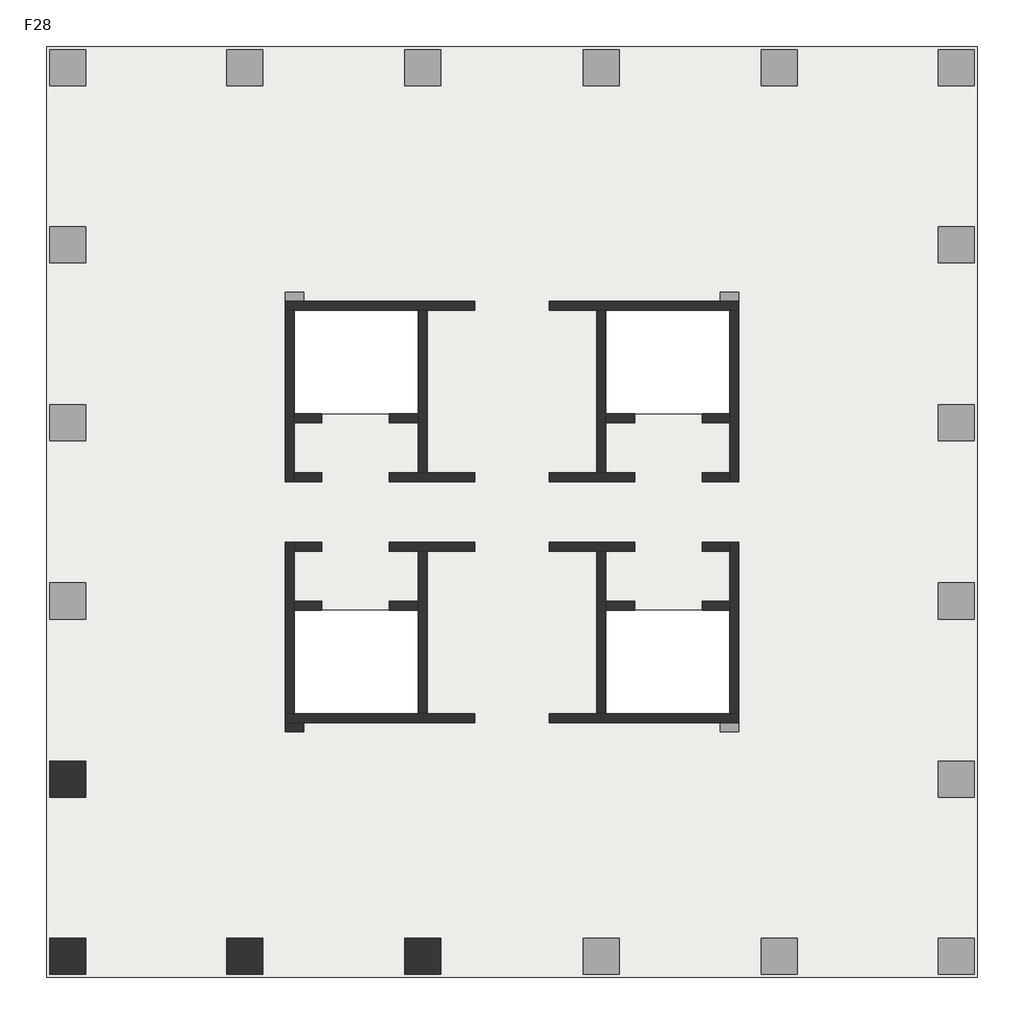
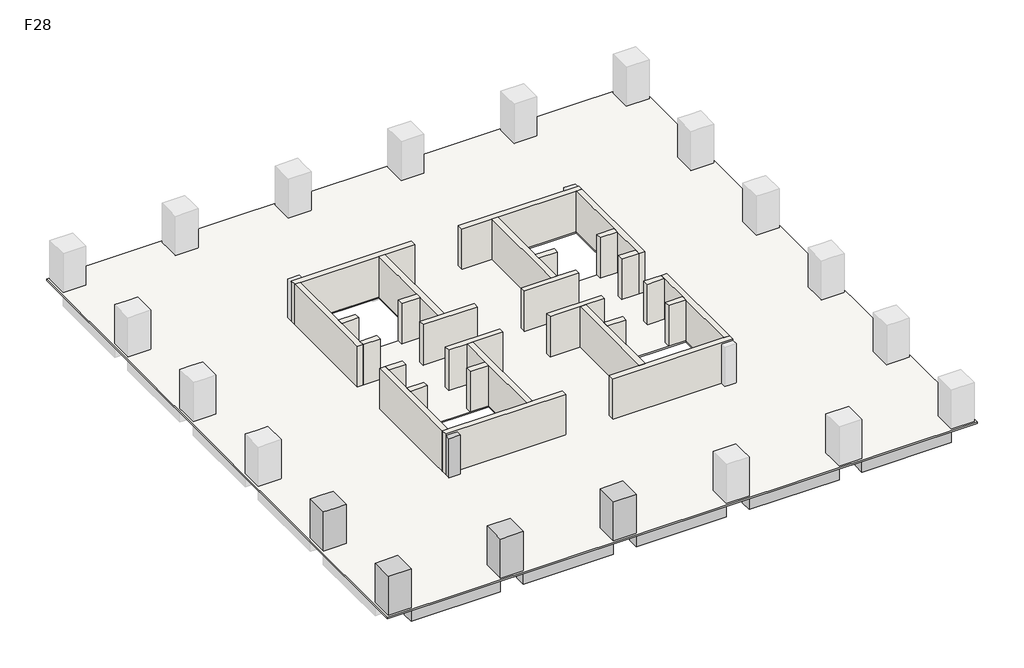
# One storey, part 1 of 2: 28 walls, 5 columns, 3 beams, 1 slab.
"""IFC4 building model written with IfcOpenShell, lengths in millimetres."""

from ifc_helpers import new_model, si_unit, frame, origin, place, context, project, spatial, polyline, outline, extrude, faceted_brep, element, save

model = new_model("IFC4")

# Units and contexts
model_context = context("Model", 3, world=origin())
ifc_project = project(units=[si_unit("LENGTHUNIT", "METRE", prefix="MILLI")], contexts=[model_context])

# Site, building, storey
site = spatial("IfcSite", under=ifc_project)
building = spatial("IfcBuilding", under=site)
storey = spatial("IfcBuildingStorey", under=building, Name="F28", Elevation=102000.0)

# Beams
placement = place(None, origin())
element("IfcBeam", 1, ObjectType="混凝土 - 矩形梁 : KL(5)-800x1000", at=placement, inside=storey, context=model_context, shape_type="SweptSolid", body=[
    extrude(outline(polyline([(-12472.6742169, -13948.9501342), (-12472.6742169, -13148.9501342), (-6222.6742169, -13148.9501342), (-6222.6742169, -13948.9501342), (-12472.6742169, -13948.9501342)])), frame((0.0, 0.0, 101000.0), z_axis=(0.0, 0.0, 1.0), x_axis=(1.0, 0.0, 0.0)), (0.0, 0.0, 1.0), 900.0),
    extrude(outline(polyline([(25327.3257831, -13148.9501342), (25327.3257831, -13948.9501342), (19077.3257831, -13948.9501342), (19077.3257831, -13148.9501342), (25327.3257831, -13148.9501342)])), frame((0.0, 0.0, 101000.0), z_axis=(0.0, 0.0, 1.0), x_axis=(1.0, 0.0, 0.0)), (0.0, 0.0, 1.0), 900.0),
    extrude(outline(polyline([(-4622.6742169, -13948.9501342), (-4622.6742169, -13148.9501342), (1677.3257831, -13148.9501342), (1677.3257831, -13948.9501342), (-4622.6742169, -13948.9501342)])), frame((0.0, 0.0, 101000.0), z_axis=(0.0, 0.0, 1.0), x_axis=(1.0, 0.0, 0.0)), (0.0, 0.0, 1.0), 900.0),
    extrude(outline(polyline([(3277.3257831, -13948.9501342), (3277.3257831, -13148.9501342), (9577.3257831, -13148.9501342), (9577.3257831, -13948.9501342), (3277.3257831, -13948.9501342)])), frame((0.0, 0.0, 101000.0), z_axis=(0.0, 0.0, 1.0), x_axis=(1.0, 0.0, 0.0)), (0.0, 0.0, 1.0), 900.0),
    extrude(outline(polyline([(11177.3257831, -13948.9501342), (11177.3257831, -13148.9501342), (17477.3257831, -13148.9501342), (17477.3257831, -13948.9501342), (11177.3257831, -13948.9501342)])), frame((0.0, 0.0, 101000.0), z_axis=(0.0, 0.0, 1.0), x_axis=(1.0, 0.0, 0.0)), (0.0, 0.0, 1.0), 900.0),
])
element("IfcBeam", 2, ObjectType="混凝土 - 矩形梁 : L1-800x500", at=placement, inside=storey, context=model_context, shape_type="Brep", body=[
    faceted_brep([(-12472.6742169, -5512.1353397, 101500.0), (-3746.9473979, -3341.556529, 101500.0), (-3173.6696907, -3198.9501342, 101500.0), (-3173.6696907, -3198.9501342, 101900.0), (-3746.9473979, -3341.556529, 101900.0), (-12472.6742169, -5512.1353397, 101900.0), (-3622.6742169, -3198.9501342, 101500.0), (-12472.6742169, -4687.7549784, 101500.0), (-3622.6742169, -2486.2624411, 101500.0), (-3622.6742169, -2798.9501342, 101500.0), (-12472.6742169, -4687.7549784, 101900.0), (-3622.6742169, -2486.2624411, 101900.0), (-3622.6742169, -3198.9501342, 101900.0)], [[[0, 1, 2, 3, 4, 5]], [[6, 2, 1, 0, 7, 8, 9]], [[8, 7, 10, 11]], [[2, 6, 12, 3]], [[9, 8, 11, 12, 6]], [[7, 0, 5, 10]], [[5, 4, 3, 12, 11, 10]]]),
])
element("IfcBeam", 3, ObjectType="混凝土 - 矩形梁 : L1-800x500", at=placement, inside=storey, context=model_context, shape_type="SweptSolid", body=[
    extrude(outline(polyline([(-3746.9473979, -3341.556529), (-3173.6696907, -3198.9501342), (-2898.7618154, -3198.9501342), (-4843.6893517, -12348.9501342), (-5661.5624638, -12348.9501342), (-3746.9473979, -3341.556529)])), frame((0.0, 0.0, 101500.0), z_axis=(0.0, 0.0, 1.0), x_axis=(1.0, 0.0, 0.0)), (0.0, 0.0, 1.0), 400.0),
])

# Columns
element("IfcColumn", 4, ObjectType="混凝土 - 矩形 - 柱 : Z1-1600x1600", at=placement, inside=storey, context=model_context, shape_type="Brep", body=[
    faceted_brep([(-12472.6742169, -4498.9501342, 102000.0), (-12472.6742169, -6098.9501342, 102000.0), (-14072.6742169, -6098.9501342, 102000.0), (-14072.6742169, -4498.9501342, 102000.0), (-12472.6742169, -4498.9501342, 104900.0), (-12472.6742169, -6098.9501342, 104900.0), (-13272.6742169, -6098.9501342, 104900.0), (-14072.6742169, -6098.9501342, 104900.0), (-14072.6742169, -6098.9501342, 104000.0), (-14072.6742169, -4498.9501342, 104900.0), (-14072.6742169, -4498.9501342, 104000.0), (-13272.6742169, -4498.9501342, 104900.0)], [[[0, 1, 2, 3]], [[1, 0, 4, 5]], [[2, 1, 5, 6, 7, 8]], [[3, 2, 8, 7, 9, 10]], [[0, 3, 10, 9, 11, 4]], [[5, 4, 11, 9, 7, 6]]]),
])
element("IfcColumn", 5, ObjectType="混凝土 - 矩形 - 柱 : Z1-1600x1600", at=placement, inside=storey, context=model_context, shape_type="SweptSolid", body=[
    extrude(outline(polyline([(-12472.6742169, -12348.9501342), (-12472.6742169, -13948.9501342), (-14072.6742169, -13948.9501342), (-14072.6742169, -12348.9501342), (-12472.6742169, -12348.9501342)])), frame((0.0, 0.0, 102000.0), z_axis=(0.0, 0.0, 1.0), x_axis=(1.0, 0.0, 0.0)), (0.0, 0.0, 1.0), 2900.0),
])
element("IfcColumn", 6, ObjectType="混凝土 - 矩形 - 柱 : Z1-1600x1600", at=placement, inside=storey, context=model_context, shape_type="Brep", body=[
    faceted_brep([(-4622.6742169, -12348.9501342, 102000.0), (-4622.6742169, -13948.9501342, 102000.0), (-6222.6742169, -13948.9501342, 102000.0), (-6222.6742169, -12348.9501342, 102000.0), (-4622.6742169, -12348.9501342, 104900.0), (-4622.6742169, -13148.9501342, 104900.0), (-4622.6742169, -13948.9501342, 104900.0), (-4622.6742169, -13948.9501342, 104000.0), (-6222.6742169, -13948.9501342, 104900.0), (-6222.6742169, -13948.9501342, 104000.0), (-6222.6742169, -13148.9501342, 104900.0), (-6222.6742169, -12348.9501342, 104900.0)], [[[0, 1, 2, 3]], [[1, 0, 4, 5, 6, 7]], [[2, 1, 7, 6, 8, 9]], [[3, 2, 9, 8, 10, 11]], [[0, 3, 11, 4]], [[6, 5, 4, 11, 10, 8]]]),
])
element("IfcColumn", 7, ObjectType="混凝土 - 矩形 - 柱 : Z1-1600x1600", at=placement, inside=storey, context=model_context, shape_type="Brep", body=[
    faceted_brep([(3277.3257831, -12348.9501342, 102000.0), (3277.3257831, -13948.9501342, 102000.0), (1677.3257831, -13948.9501342, 102000.0), (1677.3257831, -12348.9501342, 102000.0), (3277.3257831, -12348.9501342, 104900.0), (3277.3257831, -13148.9501342, 104900.0), (3277.3257831, -13948.9501342, 104900.0), (3277.3257831, -13948.9501342, 104000.0), (1677.3257831, -13948.9501342, 104900.0), (1677.3257831, -13948.9501342, 104000.0), (1677.3257831, -13148.9501342, 104900.0), (1677.3257831, -12348.9501342, 104900.0)], [[[0, 1, 2, 3]], [[1, 0, 4, 5, 6, 7]], [[2, 1, 7, 6, 8, 9]], [[3, 2, 9, 8, 10, 11]], [[0, 3, 11, 4]], [[6, 5, 4, 11, 10, 8]]]),
])
element("IfcColumn", 8, ObjectType="混凝土 - 矩形 - 柱 : Z2-800x800", at=placement, inside=storey, context=model_context, shape_type="SweptSolid", body=[
    extrude(outline(polyline([(-2822.6742169, -3198.9501342), (-3622.6742169, -3198.9501342), (-3622.6742169, -2798.9501342), (-2822.6742169, -2798.9501342), (-2822.6742169, -3198.9501342)])), frame((0.0, 0.0, 102000.0), z_axis=(0.0, 0.0, 1.0), x_axis=(1.0, 0.0, 0.0)), (0.0, 0.0, 1.0), 2900.0),
])

# Slab
element("IfcSlab", 9, ObjectType="LB-100", at=placement, inside=storey, context=model_context, shape_type="SweptSolid", body=[
    extrude(outline(polyline([(27077.3257831, 27201.0498658), (27077.3257831, -14085.2672073), (-14222.6742169, -14085.2672073), (-14222.6742169, 27201.0498658), (27077.3257831, 27201.0498658)]), holes=[polyline([(2277.3257831, 15501.0498658), (-3222.6742169, 15501.0498658), (-3222.6742169, 10901.0498658), (2277.3257831, 10901.0498658), (2277.3257831, 15501.0498658)]), polyline([(2277.3257831, 2201.0498658), (-3222.6742169, 2201.0498658), (-3222.6742169, -2398.9501342), (2277.3257831, -2398.9501342), (2277.3257831, 2201.0498658)]), polyline([(16077.3257831, 2201.0498658), (10577.3257831, 2201.0498658), (10577.3257831, -2398.9501342), (16077.3257831, -2398.9501342), (16077.3257831, 2201.0498658)]), polyline([(16077.3257831, 15501.0498658), (10577.3257831, 15501.0498658), (10577.3257831, 10901.0498658), (16077.3257831, 10901.0498658), (16077.3257831, 15501.0498658)])]), frame((0.0, 0.0, 101900.0), z_axis=(0.0, 0.0, 1.0), x_axis=(1.0, 0.0, 0.0)), (0.0, 0.0, 1.0), 100.0),
])

# Walls
element("IfcWall", 10, ObjectType="剪力墙-400", at=placement, inside=storey, context=model_context, shape_type="Brep", body=[
    faceted_brep([(-3622.6742169, 15501.0498658, 102000.0), (-3222.6742169, 15501.0498658, 102000.0), (2277.3257831, 15501.0498658, 102000.0), (2677.3257831, 15501.0498658, 102000.0), (4777.3257831, 15501.0498658, 102000.0), (4777.3257831, 15501.0498658, 105000.0), (2677.3257831, 15501.0498658, 105000.0), (2277.3257831, 15501.0498658, 105000.0), (-3222.6742169, 15501.0498658, 105000.0), (-3622.6742169, 15501.0498658, 105000.0), (-3622.6742169, 15901.0498658, 102000.0), (-3622.6742169, 15901.0498658, 104900.0), (-3622.6742169, 15901.0498658, 105000.0), (4777.3257831, 15901.0498658, 105000.0), (4777.3257831, 15901.0498658, 102000.0), (-2822.6742169, 15901.0498658, 102000.0)], [[[0, 1, 2, 3, 4, 5, 6, 7, 8, 9]], [[10, 11, 12, 13, 14, 15]], [[4, 3, 2, 1, 0, 10, 15, 14]], [[5, 4, 14, 13]], [[9, 8, 7, 6, 5, 13, 12]], [[0, 9, 12, 11, 10]]]),
])
element("IfcWall", 11, ObjectType="剪力墙-400", at=placement, inside=storey, context=model_context, shape_type="Brep", body=[
    faceted_brep([(2277.3257831, 15501.0498658, 102000.0), (2277.3257831, 10901.0498658, 102000.0), (2277.3257831, 10501.0498658, 102000.0), (2277.3257831, 8301.0498658, 102000.0), (2277.3257831, 8301.0498658, 105000.0), (2277.3257831, 10501.0498658, 105000.0), (2277.3257831, 10901.0498658, 105000.0), (2277.3257831, 15501.0498658, 105000.0), (2677.3257831, 15501.0498658, 102000.0), (2677.3257831, 15501.0498658, 105000.0), (2677.3257831, 8301.0498658, 105000.0), (2677.3257831, 8301.0498658, 102000.0)], [[[0, 1, 2, 3, 4, 5, 6, 7]], [[8, 9, 10, 11]], [[3, 2, 1, 0, 8, 11]], [[7, 6, 5, 4, 10, 9]], [[0, 7, 9, 8]], [[4, 3, 11, 10]]]),
])
element("IfcWall", 12, ObjectType="剪力墙-400", at=placement, inside=storey, context=model_context, shape_type="Brep", body=[
    faceted_brep([(-3622.6742169, 15501.0498658, 102000.0), (-3622.6742169, 7901.0498658, 102000.0), (-3622.6742169, 7901.0498658, 105000.0), (-3622.6742169, 15501.0498658, 105000.0), (-3222.6742169, 15501.0498658, 102000.0), (-3222.6742169, 15501.0498658, 105000.0), (-3222.6742169, 10901.0498658, 105000.0), (-3222.6742169, 10501.0498658, 105000.0), (-3222.6742169, 8301.0498658, 105000.0), (-3222.6742169, 7901.0498658, 105000.0), (-3222.6742169, 7901.0498658, 102000.0), (-3222.6742169, 8301.0498658, 102000.0), (-3222.6742169, 10501.0498658, 102000.0), (-3222.6742169, 10901.0498658, 102000.0)], [[[0, 1, 2, 3]], [[4, 5, 6, 7, 8, 9, 10, 11, 12, 13]], [[1, 0, 4, 13, 12, 11, 10]], [[3, 2, 9, 8, 7, 6, 5]], [[0, 3, 5, 4]], [[2, 1, 10, 9]]]),
])
element("IfcWall", 13, ObjectType="剪力墙-400", at=placement, inside=storey, context=model_context, shape_type="SweptSolid", body=[
    extrude(outline(polyline([(-2022.6742169, 7901.0498658), (-3222.6742169, 7901.0498658), (-3222.6742169, 8301.0498658), (-2022.6742169, 8301.0498658), (-2022.6742169, 7901.0498658)])), frame((0.0, 0.0, 102000.0), z_axis=(0.0, 0.0, 1.0), x_axis=(1.0, 0.0, 0.0)), (0.0, 0.0, 1.0), 3000.0),
])
element("IfcWall", 14, ObjectType="剪力墙-400", at=placement, inside=storey, context=model_context, shape_type="Brep", body=[
    faceted_brep([(977.3257831, 7901.0498658, 102000.0), (4777.3257831, 7901.0498658, 102000.0), (4777.3257831, 7901.0498658, 105000.0), (977.3257831, 7901.0498658, 105000.0), (977.3257831, 8301.0498658, 102000.0), (977.3257831, 8301.0498658, 105000.0), (2277.3257831, 8301.0498658, 105000.0), (2677.3257831, 8301.0498658, 105000.0), (4777.3257831, 8301.0498658, 105000.0), (4777.3257831, 8301.0498658, 102000.0), (2677.3257831, 8301.0498658, 102000.0), (2277.3257831, 8301.0498658, 102000.0)], [[[0, 1, 2, 3]], [[4, 5, 6, 7, 8, 9, 10, 11]], [[1, 0, 4, 11, 10, 9]], [[2, 1, 9, 8]], [[3, 2, 8, 7, 6, 5]], [[0, 3, 5, 4]]]),
])
element("IfcWall", 15, ObjectType="剪力墙-400", at=placement, inside=storey, context=model_context, shape_type="SweptSolid", body=[
    extrude(outline(polyline([(-2022.6742169, 10501.0498658), (-3222.6742169, 10501.0498658), (-3222.6742169, 10901.0498658), (-2022.6742169, 10901.0498658), (-2022.6742169, 10501.0498658)])), frame((0.0, 0.0, 102000.0), z_axis=(0.0, 0.0, 1.0), x_axis=(1.0, 0.0, 0.0)), (0.0, 0.0, 1.0), 3000.0),
])
element("IfcWall", 16, ObjectType="剪力墙-400", at=placement, inside=storey, context=model_context, shape_type="SweptSolid", body=[
    extrude(outline(polyline([(2277.3257831, 10501.0498658), (977.3257831, 10501.0498658), (977.3257831, 10901.0498658), (2277.3257831, 10901.0498658), (2277.3257831, 10501.0498658)])), frame((0.0, 0.0, 102000.0), z_axis=(0.0, 0.0, 1.0), x_axis=(1.0, 0.0, 0.0)), (0.0, 0.0, 1.0), 3000.0),
])
element("IfcWall", 17, ObjectType="剪力墙-400", at=placement, inside=storey, context=model_context, shape_type="Brep", body=[
    faceted_brep([(16477.3257831, 15901.0498658, 102000.0), (15677.3257831, 15901.0498658, 102000.0), (8077.3257831, 15901.0498658, 102000.0), (8077.3257831, 15901.0498658, 105000.0), (16477.3257831, 15901.0498658, 105000.0), (16477.3257831, 15901.0498658, 104900.0), (16477.3257831, 15501.0498658, 102000.0), (16477.3257831, 15501.0498658, 105000.0), (16077.3257831, 15501.0498658, 105000.0), (10577.3257831, 15501.0498658, 105000.0), (10177.3257831, 15501.0498658, 105000.0), (8077.3257831, 15501.0498658, 105000.0), (8077.3257831, 15501.0498658, 102000.0), (10177.3257831, 15501.0498658, 102000.0), (10577.3257831, 15501.0498658, 102000.0), (16077.3257831, 15501.0498658, 102000.0)], [[[0, 1, 2, 3, 4, 5]], [[6, 7, 8, 9, 10, 11, 12, 13, 14, 15]], [[2, 1, 0, 6, 15, 14, 13, 12]], [[3, 2, 12, 11]], [[4, 3, 11, 10, 9, 8, 7]], [[0, 5, 4, 7, 6]]]),
])
element("IfcWall", 18, ObjectType="剪力墙-400", at=placement, inside=storey, context=model_context, shape_type="Brep", body=[
    faceted_brep([(10177.3257831, 15501.0498658, 102000.0), (10177.3257831, 8301.0498658, 102000.0), (10177.3257831, 8301.0498658, 105000.0), (10177.3257831, 15501.0498658, 105000.0), (10577.3257831, 15501.0498658, 102000.0), (10577.3257831, 15501.0498658, 105000.0), (10577.3257831, 10901.0498658, 105000.0), (10577.3257831, 10501.0498658, 105000.0), (10577.3257831, 8301.0498658, 105000.0), (10577.3257831, 8301.0498658, 102000.0), (10577.3257831, 10501.0498658, 102000.0), (10577.3257831, 10901.0498658, 102000.0)], [[[0, 1, 2, 3]], [[4, 5, 6, 7, 8, 9, 10, 11]], [[1, 0, 4, 11, 10, 9]], [[3, 2, 8, 7, 6, 5]], [[0, 3, 5, 4]], [[2, 1, 9, 8]]]),
])
element("IfcWall", 19, ObjectType="剪力墙-400", at=placement, inside=storey, context=model_context, shape_type="Brep", body=[
    faceted_brep([(16077.3257831, 15501.0498658, 102000.0), (16077.3257831, 10901.0498658, 102000.0), (16077.3257831, 10501.0498658, 102000.0), (16077.3257831, 8301.0498658, 102000.0), (16077.3257831, 7901.0498658, 102000.0), (16077.3257831, 7901.0498658, 105000.0), (16077.3257831, 8301.0498658, 105000.0), (16077.3257831, 10501.0498658, 105000.0), (16077.3257831, 10901.0498658, 105000.0), (16077.3257831, 15501.0498658, 105000.0), (16477.3257831, 15501.0498658, 102000.0), (16477.3257831, 15501.0498658, 105000.0), (16477.3257831, 7901.0498658, 105000.0), (16477.3257831, 7901.0498658, 102000.0)], [[[0, 1, 2, 3, 4, 5, 6, 7, 8, 9]], [[10, 11, 12, 13]], [[4, 3, 2, 1, 0, 10, 13]], [[9, 8, 7, 6, 5, 12, 11]], [[0, 9, 11, 10]], [[5, 4, 13, 12]]]),
])
element("IfcWall", 20, ObjectType="剪力墙-400", at=placement, inside=storey, context=model_context, shape_type="SweptSolid", body=[
    extrude(outline(polyline([(14877.3257831, 8301.0498658), (16077.3257831, 8301.0498658), (16077.3257831, 7901.0498658), (14877.3257831, 7901.0498658), (14877.3257831, 8301.0498658)])), frame((0.0, 0.0, 102000.0), z_axis=(0.0, 0.0, 1.0), x_axis=(1.0, 0.0, 0.0)), (0.0, 0.0, 1.0), 3000.0),
])
element("IfcWall", 21, ObjectType="剪力墙-400", at=placement, inside=storey, context=model_context, shape_type="Brep", body=[
    faceted_brep([(11877.3257831, 8301.0498658, 102000.0), (10577.3257831, 8301.0498658, 102000.0), (10177.3257831, 8301.0498658, 102000.0), (8077.3257831, 8301.0498658, 102000.0), (8077.3257831, 8301.0498658, 105000.0), (10177.3257831, 8301.0498658, 105000.0), (10577.3257831, 8301.0498658, 105000.0), (11877.3257831, 8301.0498658, 105000.0), (11877.3257831, 7901.0498658, 102000.0), (11877.3257831, 7901.0498658, 105000.0), (8077.3257831, 7901.0498658, 105000.0), (8077.3257831, 7901.0498658, 102000.0)], [[[0, 1, 2, 3, 4, 5, 6, 7]], [[8, 9, 10, 11]], [[3, 2, 1, 0, 8, 11]], [[4, 3, 11, 10]], [[7, 6, 5, 4, 10, 9]], [[0, 7, 9, 8]]]),
])
element("IfcWall", 22, ObjectType="剪力墙-400", at=placement, inside=storey, context=model_context, shape_type="SweptSolid", body=[
    extrude(outline(polyline([(14877.3257831, 10901.0498658), (16077.3257831, 10901.0498658), (16077.3257831, 10501.0498658), (14877.3257831, 10501.0498658), (14877.3257831, 10901.0498658)])), frame((0.0, 0.0, 102000.0), z_axis=(0.0, 0.0, 1.0), x_axis=(1.0, 0.0, 0.0)), (0.0, 0.0, 1.0), 3000.0),
])
element("IfcWall", 23, ObjectType="剪力墙-400", at=placement, inside=storey, context=model_context, shape_type="SweptSolid", body=[
    extrude(outline(polyline([(10577.3257831, 10901.0498658), (11877.3257831, 10901.0498658), (11877.3257831, 10501.0498658), (10577.3257831, 10501.0498658), (10577.3257831, 10901.0498658)])), frame((0.0, 0.0, 102000.0), z_axis=(0.0, 0.0, 1.0), x_axis=(1.0, 0.0, 0.0)), (0.0, 0.0, 1.0), 3000.0),
])
element("IfcWall", 24, ObjectType="剪力墙-400", at=placement, inside=storey, context=model_context, shape_type="Brep", body=[
    faceted_brep([(-3622.6742169, -2798.9501342, 102000.0), (-2822.6742169, -2798.9501342, 102000.0), (4777.3257831, -2798.9501342, 102000.0), (4777.3257831, -2798.9501342, 105000.0), (-3622.6742169, -2798.9501342, 105000.0), (-3622.6742169, -2798.9501342, 104900.0), (-3622.6742169, -2398.9501342, 102000.0), (-3622.6742169, -2398.9501342, 105000.0), (-3222.6742169, -2398.9501342, 105000.0), (2277.3257831, -2398.9501342, 105000.0), (2677.3257831, -2398.9501342, 105000.0), (4777.3257831, -2398.9501342, 105000.0), (4777.3257831, -2398.9501342, 102000.0), (2677.3257831, -2398.9501342, 102000.0), (2277.3257831, -2398.9501342, 102000.0), (-3222.6742169, -2398.9501342, 102000.0)], [[[0, 1, 2, 3, 4, 5]], [[6, 7, 8, 9, 10, 11, 12, 13, 14, 15]], [[2, 1, 0, 6, 15, 14, 13, 12]], [[3, 2, 12, 11]], [[4, 3, 11, 10, 9, 8, 7]], [[0, 5, 4, 7, 6]]]),
])
element("IfcWall", 25, ObjectType="剪力墙-400", at=placement, inside=storey, context=model_context, shape_type="Brep", body=[
    faceted_brep([(2677.3257831, -2398.9501342, 102000.0), (2677.3257831, 4801.0498658, 102000.0), (2677.3257831, 4801.0498658, 105000.0), (2677.3257831, -2398.9501342, 105000.0), (2277.3257831, -2398.9501342, 102000.0), (2277.3257831, -2398.9501342, 105000.0), (2277.3257831, 2201.0498658, 105000.0), (2277.3257831, 2601.0498658, 105000.0), (2277.3257831, 4801.0498658, 105000.0), (2277.3257831, 4801.0498658, 102000.0), (2277.3257831, 2601.0498658, 102000.0), (2277.3257831, 2201.0498658, 102000.0)], [[[0, 1, 2, 3]], [[4, 5, 6, 7, 8, 9, 10, 11]], [[1, 0, 4, 11, 10, 9]], [[3, 2, 8, 7, 6, 5]], [[0, 3, 5, 4]], [[2, 1, 9, 8]]]),
])
element("IfcWall", 26, ObjectType="剪力墙-400", at=placement, inside=storey, context=model_context, shape_type="Brep", body=[
    faceted_brep([(-3222.6742169, -2398.9501342, 102000.0), (-3222.6742169, 2201.0498658, 102000.0), (-3222.6742169, 2601.0498658, 102000.0), (-3222.6742169, 4801.0498658, 102000.0), (-3222.6742169, 5201.0498658, 102000.0), (-3222.6742169, 5201.0498658, 105000.0), (-3222.6742169, 4801.0498658, 105000.0), (-3222.6742169, 2601.0498658, 105000.0), (-3222.6742169, 2201.0498658, 105000.0), (-3222.6742169, -2398.9501342, 105000.0), (-3622.6742169, -2398.9501342, 102000.0), (-3622.6742169, -2398.9501342, 105000.0), (-3622.6742169, 5201.0498658, 105000.0), (-3622.6742169, 5201.0498658, 102000.0)], [[[0, 1, 2, 3, 4, 5, 6, 7, 8, 9]], [[10, 11, 12, 13]], [[4, 3, 2, 1, 0, 10, 13]], [[9, 8, 7, 6, 5, 12, 11]], [[0, 9, 11, 10]], [[5, 4, 13, 12]]]),
])
element("IfcWall", 27, ObjectType="剪力墙-400", at=placement, inside=storey, context=model_context, shape_type="SweptSolid", body=[
    extrude(outline(polyline([(-2022.6742169, 4801.0498658), (-3222.6742169, 4801.0498658), (-3222.6742169, 5201.0498658), (-2022.6742169, 5201.0498658), (-2022.6742169, 4801.0498658)])), frame((0.0, 0.0, 102000.0), z_axis=(0.0, 0.0, 1.0), x_axis=(1.0, 0.0, 0.0)), (0.0, 0.0, 1.0), 3000.0),
])
element("IfcWall", 28, ObjectType="剪力墙-400", at=placement, inside=storey, context=model_context, shape_type="Brep", body=[
    faceted_brep([(977.3257831, 4801.0498658, 102000.0), (2277.3257831, 4801.0498658, 102000.0), (2677.3257831, 4801.0498658, 102000.0), (4777.3257831, 4801.0498658, 102000.0), (4777.3257831, 4801.0498658, 105000.0), (2677.3257831, 4801.0498658, 105000.0), (2277.3257831, 4801.0498658, 105000.0), (977.3257831, 4801.0498658, 105000.0), (977.3257831, 5201.0498658, 102000.0), (977.3257831, 5201.0498658, 105000.0), (4777.3257831, 5201.0498658, 105000.0), (4777.3257831, 5201.0498658, 102000.0)], [[[0, 1, 2, 3, 4, 5, 6, 7]], [[8, 9, 10, 11]], [[3, 2, 1, 0, 8, 11]], [[4, 3, 11, 10]], [[7, 6, 5, 4, 10, 9]], [[0, 7, 9, 8]]]),
])
element("IfcWall", 29, ObjectType="剪力墙-400", at=placement, inside=storey, context=model_context, shape_type="SweptSolid", body=[
    extrude(outline(polyline([(-2022.6742169, 2201.0498658), (-3222.6742169, 2201.0498658), (-3222.6742169, 2601.0498658), (-2022.6742169, 2601.0498658), (-2022.6742169, 2201.0498658)])), frame((0.0, 0.0, 102000.0), z_axis=(0.0, 0.0, 1.0), x_axis=(1.0, 0.0, 0.0)), (0.0, 0.0, 1.0), 3000.0),
])
element("IfcWall", 30, ObjectType="剪力墙-400", at=placement, inside=storey, context=model_context, shape_type="SweptSolid", body=[
    extrude(outline(polyline([(2277.3257831, 2201.0498658), (977.3257831, 2201.0498658), (977.3257831, 2601.0498658), (2277.3257831, 2601.0498658), (2277.3257831, 2201.0498658)])), frame((0.0, 0.0, 102000.0), z_axis=(0.0, 0.0, 1.0), x_axis=(1.0, 0.0, 0.0)), (0.0, 0.0, 1.0), 3000.0),
])
element("IfcWall", 31, ObjectType="剪力墙-400", at=placement, inside=storey, context=model_context, shape_type="Brep", body=[
    faceted_brep([(16477.3257831, -2398.9501342, 102000.0), (16077.3257831, -2398.9501342, 102000.0), (10577.3257831, -2398.9501342, 102000.0), (10177.3257831, -2398.9501342, 102000.0), (8077.3257831, -2398.9501342, 102000.0), (8077.3257831, -2398.9501342, 105000.0), (10177.3257831, -2398.9501342, 105000.0), (10577.3257831, -2398.9501342, 105000.0), (16077.3257831, -2398.9501342, 105000.0), (16477.3257831, -2398.9501342, 105000.0), (16477.3257831, -2798.9501342, 102000.0), (16477.3257831, -2798.9501342, 104900.0), (16477.3257831, -2798.9501342, 105000.0), (8077.3257831, -2798.9501342, 105000.0), (8077.3257831, -2798.9501342, 102000.0), (15677.3257831, -2798.9501342, 102000.0)], [[[0, 1, 2, 3, 4, 5, 6, 7, 8, 9]], [[10, 11, 12, 13, 14, 15]], [[4, 3, 2, 1, 0, 10, 15, 14]], [[5, 4, 14, 13]], [[9, 8, 7, 6, 5, 13, 12]], [[0, 9, 12, 11, 10]]]),
])
element("IfcWall", 32, ObjectType="剪力墙-400", at=placement, inside=storey, context=model_context, shape_type="Brep", body=[
    faceted_brep([(10577.3257831, -2398.9501342, 102000.0), (10577.3257831, 2201.0498658, 102000.0), (10577.3257831, 2601.0498658, 102000.0), (10577.3257831, 4801.0498658, 102000.0), (10577.3257831, 4801.0498658, 105000.0), (10577.3257831, 2601.0498658, 105000.0), (10577.3257831, 2201.0498658, 105000.0), (10577.3257831, -2398.9501342, 105000.0), (10177.3257831, -2398.9501342, 102000.0), (10177.3257831, -2398.9501342, 105000.0), (10177.3257831, 4801.0498658, 105000.0), (10177.3257831, 4801.0498658, 102000.0)], [[[0, 1, 2, 3, 4, 5, 6, 7]], [[8, 9, 10, 11]], [[3, 2, 1, 0, 8, 11]], [[7, 6, 5, 4, 10, 9]], [[0, 7, 9, 8]], [[4, 3, 11, 10]]]),
])
element("IfcWall", 33, ObjectType="剪力墙-400", at=placement, inside=storey, context=model_context, shape_type="Brep", body=[
    faceted_brep([(16477.3257831, -2398.9501342, 102000.0), (16477.3257831, 5201.0498658, 102000.0), (16477.3257831, 5201.0498658, 105000.0), (16477.3257831, -2398.9501342, 105000.0), (16077.3257831, -2398.9501342, 102000.0), (16077.3257831, -2398.9501342, 105000.0), (16077.3257831, 2201.0498658, 105000.0), (16077.3257831, 2601.0498658, 105000.0), (16077.3257831, 4801.0498658, 105000.0), (16077.3257831, 5201.0498658, 105000.0), (16077.3257831, 5201.0498658, 102000.0), (16077.3257831, 4801.0498658, 102000.0), (16077.3257831, 2601.0498658, 102000.0), (16077.3257831, 2201.0498658, 102000.0)], [[[0, 1, 2, 3]], [[4, 5, 6, 7, 8, 9, 10, 11, 12, 13]], [[1, 0, 4, 13, 12, 11, 10]], [[3, 2, 9, 8, 7, 6, 5]], [[0, 3, 5, 4]], [[2, 1, 10, 9]]]),
])
element("IfcWall", 34, ObjectType="剪力墙-400", at=placement, inside=storey, context=model_context, shape_type="SweptSolid", body=[
    extrude(outline(polyline([(14877.3257831, 5201.0498658), (16077.3257831, 5201.0498658), (16077.3257831, 4801.0498658), (14877.3257831, 4801.0498658), (14877.3257831, 5201.0498658)])), frame((0.0, 0.0, 102000.0), z_axis=(0.0, 0.0, 1.0), x_axis=(1.0, 0.0, 0.0)), (0.0, 0.0, 1.0), 3000.0),
])
element("IfcWall", 35, ObjectType="剪力墙-400", at=placement, inside=storey, context=model_context, shape_type="Brep", body=[
    faceted_brep([(11877.3257831, 5201.0498658, 102000.0), (8077.3257831, 5201.0498658, 102000.0), (8077.3257831, 5201.0498658, 105000.0), (11877.3257831, 5201.0498658, 105000.0), (11877.3257831, 4801.0498658, 102000.0), (11877.3257831, 4801.0498658, 105000.0), (10577.3257831, 4801.0498658, 105000.0), (10177.3257831, 4801.0498658, 105000.0), (8077.3257831, 4801.0498658, 105000.0), (8077.3257831, 4801.0498658, 102000.0), (10177.3257831, 4801.0498658, 102000.0), (10577.3257831, 4801.0498658, 102000.0)], [[[0, 1, 2, 3]], [[4, 5, 6, 7, 8, 9, 10, 11]], [[1, 0, 4, 11, 10, 9]], [[2, 1, 9, 8]], [[3, 2, 8, 7, 6, 5]], [[0, 3, 5, 4]]]),
])
element("IfcWall", 36, ObjectType="剪力墙-400", at=placement, inside=storey, context=model_context, shape_type="SweptSolid", body=[
    extrude(outline(polyline([(14877.3257831, 2601.0498658), (16077.3257831, 2601.0498658), (16077.3257831, 2201.0498658), (14877.3257831, 2201.0498658), (14877.3257831, 2601.0498658)])), frame((0.0, 0.0, 102000.0), z_axis=(0.0, 0.0, 1.0), x_axis=(1.0, 0.0, 0.0)), (0.0, 0.0, 1.0), 3000.0),
])
element("IfcWall", 37, ObjectType="剪力墙-400", at=placement, inside=storey, context=model_context, shape_type="SweptSolid", body=[
    extrude(outline(polyline([(10577.3257831, 2601.0498658), (11877.3257831, 2601.0498658), (11877.3257831, 2201.0498658), (10577.3257831, 2201.0498658), (10577.3257831, 2601.0498658)])), frame((0.0, 0.0, 102000.0), z_axis=(0.0, 0.0, 1.0), x_axis=(1.0, 0.0, 0.0)), (0.0, 0.0, 1.0), 3000.0),
])

save(model, "model.ifc")
